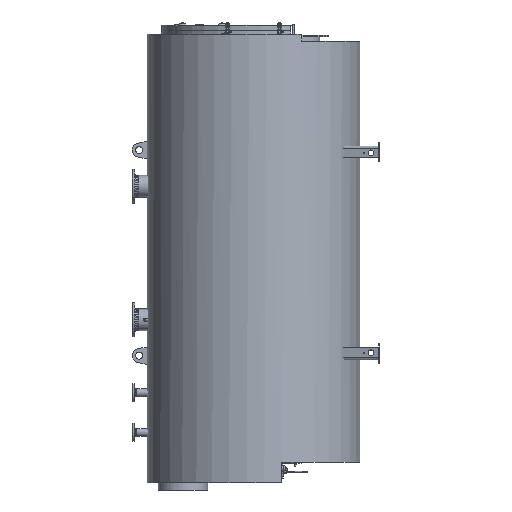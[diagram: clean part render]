
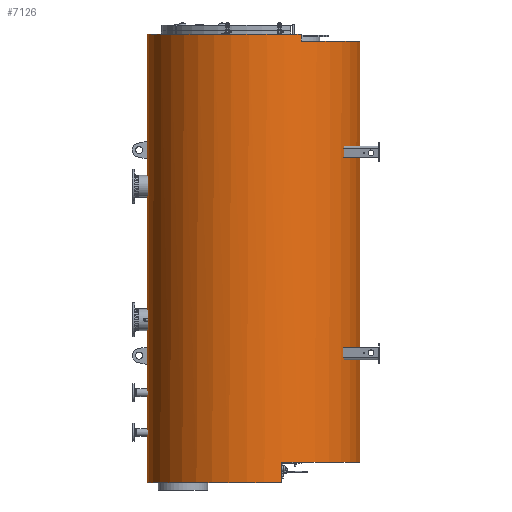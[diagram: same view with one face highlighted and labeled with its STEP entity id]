
A CAD part, left-side view. The second image highlights one B-rep face of the part: STEP entity #7126.
In plain terms, the highlighted cylindrical face has radius 1075 mm (diameter 2150 mm), a full revolution.
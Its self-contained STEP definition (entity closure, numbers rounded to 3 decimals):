
#4945=CYLINDRICAL_SURFACE('',#25401,1075.);
#5378=B_SPLINE_CURVE_WITH_KNOTS('',3,(#34005,#34006,#34007,#34008,#34009,
#34010,#34011,#34012,#34013,#34014,#34015,#34016,#34017,#34018,#34019,#34020,
#34021,#34022,#34023,#34024,#34025,#34026,#34027,#34028,#34029,#34030,#34031,
#34032,#34033,#34034,#34035,#34036,#34037,#34038,#34039,#34040,#34041,#34042,
#34043,#34044,#34045,#34046,#34047,#34048,#34049,#34050,#34051,#34052,#34053,
#34054,#34055,#34056,#34057,#34058,#34059,#34060,#34061,#34062,#34063,#34064,
#34065,#34066,#34067,#34068,#34069,#34070),.UNSPECIFIED.,.T.,.F.,(2,2,2,
2,2,2,2,2,2,2,2,2,2,2,2,2,2,2,2,2,2,2,2,2,2,2,2,2,2,2,2,2,2,2,2),(-0.031,
0.,0.031,0.063,0.094,0.125,0.156,0.188,0.219,0.25,0.281,0.313,
0.344,0.375,0.406,0.438,0.469,0.5,0.531,0.563,0.594,0.625,0.656,
0.688,0.719,0.75,0.781,0.813,0.844,0.875,0.906,0.938,0.969,
1.,1.031),.UNSPECIFIED.);
#5868=FACE_BOUND('',#9868,.T.);
#5869=FACE_BOUND('',#9869,.T.);
#5870=FACE_BOUND('',#9870,.T.);
#7126=ADVANCED_FACE('',(#5868,#5869,#5870),#4945,.T.);
#9868=EDGE_LOOP('',(#14287,#14288,#14289,#14290));
#9869=EDGE_LOOP('',(#14291));
#9870=EDGE_LOOP('',(#14292,#14293,#14294,#14295));
#11885=LINE('',#34000,#13062);
#11886=LINE('',#34004,#13063);
#11887=LINE('',#34075,#13064);
#11888=LINE('',#34076,#13065);
#13062=VECTOR('',#27853,1.);
#13063=VECTOR('',#27856,1.);
#13064=VECTOR('',#27859,1.);
#13065=VECTOR('',#27860,1.);
#14287=ORIENTED_EDGE('',*,*,#21723,.T.);
#14288=ORIENTED_EDGE('',*,*,#21724,.T.);
#14289=ORIENTED_EDGE('',*,*,#21725,.F.);
#14290=ORIENTED_EDGE('',*,*,#21710,.F.);
#14291=ORIENTED_EDGE('',*,*,#21726,.F.);
#14292=ORIENTED_EDGE('',*,*,#21727,.T.);
#14293=ORIENTED_EDGE('',*,*,#21728,.F.);
#14294=ORIENTED_EDGE('',*,*,#21721,.T.);
#14295=ORIENTED_EDGE('',*,*,#21729,.T.);
#19684=VERTEX_POINT('',#33931);
#19685=VERTEX_POINT('',#33932);
#19690=VERTEX_POINT('',#33944);
#19695=VERTEX_POINT('',#33953);
#19697=VERTEX_POINT('',#34001);
#19698=VERTEX_POINT('',#34003);
#19699=VERTEX_POINT('',#34071);
#19700=VERTEX_POINT('',#34073);
#19701=VERTEX_POINT('',#34074);
#21710=EDGE_CURVE('',#19684,#19685,#24415,.T.);
#21721=EDGE_CURVE('',#19690,#19695,#24418,.T.);
#21723=EDGE_CURVE('',#19684,#19697,#11885,.T.);
#21724=EDGE_CURVE('',#19697,#19698,#24419,.T.);
#21725=EDGE_CURVE('',#19685,#19698,#11886,.T.);
#21726=EDGE_CURVE('',#19699,#19699,#5378,.T.);
#21727=EDGE_CURVE('',#19700,#19701,#24420,.T.);
#21728=EDGE_CURVE('',#19690,#19701,#11887,.T.);
#21729=EDGE_CURVE('',#19695,#19700,#11888,.T.);
#24415=CIRCLE('',#25393,1075.);
#24418=CIRCLE('',#25397,1075.);
#24419=CIRCLE('',#25399,1075.);
#24420=CIRCLE('',#25400,1075.);
#25393=AXIS2_PLACEMENT_3D('',#33930,#27833,#27834);
#25397=AXIS2_PLACEMENT_3D('',#33954,#27849,#27850);
#25399=AXIS2_PLACEMENT_3D('',#34002,#27854,#27855);
#25400=AXIS2_PLACEMENT_3D('',#34072,#27857,#27858);
#25401=AXIS2_PLACEMENT_3D('',#34077,#27861,#27862);
#27833=DIRECTION('',(0.,0.,1.));
#27834=DIRECTION('',(1.,0.,0.));
#27849=DIRECTION('',(0.,0.,1.));
#27850=DIRECTION('',(1.,0.,0.));
#27853=DIRECTION('',(0.,0.,-1.));
#27854=DIRECTION('',(0.,0.,-1.));
#27855=DIRECTION('',(1.,0.,0.));
#27856=DIRECTION('',(0.,0.,-1.));
#27857=DIRECTION('',(0.,0.,1.));
#27858=DIRECTION('',(1.,0.,0.));
#27859=DIRECTION('',(0.,0.,-1.));
#27860=DIRECTION('',(0.,0.,-1.));
#27861=DIRECTION('',(0.,0.,1.));
#27862=DIRECTION('',(1.,0.,0.));
#33930=CARTESIAN_POINT('',(0.,0.,170.));
#33931=CARTESIAN_POINT('',(961.886,-480.,170.));
#33932=CARTESIAN_POINT('',(-961.886,-480.,170.));
#33944=CARTESIAN_POINT('',(-1036.533,-285.,-4157.));
#33953=CARTESIAN_POINT('',(1036.533,-285.,-4157.));
#33954=CARTESIAN_POINT('',(0.,0.,-4157.));
#34000=CARTESIAN_POINT('',(961.886,-480.,187.));
#34001=CARTESIAN_POINT('',(961.886,-480.,100.));
#34002=CARTESIAN_POINT('',(0.,0.,100.));
#34003=CARTESIAN_POINT('',(-961.886,-480.,100.));
#34004=CARTESIAN_POINT('',(-961.886,-480.,187.));
#34005=CARTESIAN_POINT('',(-5.618,-1075.,-3562.));
#34006=CARTESIAN_POINT('',(5.618,-1075.,-3562.));
#34007=CARTESIAN_POINT('',(11.141,-1074.956,-3561.449));
#34008=CARTESIAN_POINT('',(22.008,-1074.788,-3559.288));
#34009=CARTESIAN_POINT('',(27.407,-1074.663,-3557.653));
#34010=CARTESIAN_POINT('',(37.7,-1074.351,-3553.386));
#34011=CARTESIAN_POINT('',(42.581,-1074.166,-3550.775));
#34012=CARTESIAN_POINT('',(51.819,-1073.76,-3544.607));
#34013=CARTESIAN_POINT('',(56.191,-1073.538,-3541.018));
#34014=CARTESIAN_POINT('',(64.029,-1073.099,-3533.179));
#34015=CARTESIAN_POINT('',(67.546,-1072.88,-3528.901));
#34016=CARTESIAN_POINT('',(73.76,-1072.471,-3519.61));
#34017=CARTESIAN_POINT('',(76.4,-1072.284,-3514.666));
#34018=CARTESIAN_POINT('',(80.64,-1071.973,-3504.439));
#34019=CARTESIAN_POINT('',(82.272,-1071.848,-3499.081));
#34020=CARTESIAN_POINT('',(84.457,-1071.678,-3488.108));
#34021=CARTESIAN_POINT('',(84.997,-1071.635,-3482.592));
#34022=CARTESIAN_POINT('',(85.003,-1071.634,-3471.5));
#34023=CARTESIAN_POINT('',(84.451,-1071.678,-3465.867));
#34024=CARTESIAN_POINT('',(82.282,-1071.847,-3454.964));
#34025=CARTESIAN_POINT('',(80.677,-1071.971,-3449.664));
#34026=CARTESIAN_POINT('',(76.42,-1072.282,-3439.371));
#34027=CARTESIAN_POINT('',(73.76,-1072.471,-3434.396));
#34028=CARTESIAN_POINT('',(67.609,-1072.876,-3425.186));
#34029=CARTESIAN_POINT('',(64.098,-1073.095,-3420.893));
#34030=CARTESIAN_POINT('',(56.166,-1073.539,-3412.954));
#34031=CARTESIAN_POINT('',(51.872,-1073.758,-3409.435));
#34032=CARTESIAN_POINT('',(42.67,-1074.163,-3403.278));
#34033=CARTESIAN_POINT('',(37.702,-1074.351,-3400.615));
#34034=CARTESIAN_POINT('',(27.406,-1074.663,-3396.347));
#34035=CARTESIAN_POINT('',(22.108,-1074.786,-3394.738));
#34036=CARTESIAN_POINT('',(11.214,-1074.955,-3392.56));
#34037=CARTESIAN_POINT('',(5.579,-1075.,-3392.002));
#34038=CARTESIAN_POINT('',(-5.517,-1075.,-3391.998));
#34039=CARTESIAN_POINT('',(-11.033,-1074.957,-3392.534));
#34040=CARTESIAN_POINT('',(-21.997,-1074.789,-3394.706));
#34041=CARTESIAN_POINT('',(-27.368,-1074.664,-3396.336));
#34042=CARTESIAN_POINT('',(-37.6,-1074.354,-3400.568));
#34043=CARTESIAN_POINT('',(-42.539,-1074.168,-3403.198));
#34044=CARTESIAN_POINT('',(-51.842,-1073.759,-3409.408));
#34045=CARTESIAN_POINT('',(-56.124,-1073.541,-3412.923));
#34046=CARTESIAN_POINT('',(-63.968,-1073.102,-3420.752));
#34047=CARTESIAN_POINT('',(-67.56,-1072.879,-3425.12));
#34048=CARTESIAN_POINT('',(-73.738,-1072.472,-3434.356));
#34049=CARTESIAN_POINT('',(-76.353,-1072.287,-3439.234));
#34050=CARTESIAN_POINT('',(-80.626,-1071.974,-3449.516));
#34051=CARTESIAN_POINT('',(-82.269,-1071.848,-3454.919));
#34052=CARTESIAN_POINT('',(-84.439,-1071.679,-3465.785));
#34053=CARTESIAN_POINT('',(-84.994,-1071.635,-3471.305));
#34054=CARTESIAN_POINT('',(-85.005,-1071.634,-3482.528));
#34055=CARTESIAN_POINT('',(-84.458,-1071.678,-3488.067));
#34056=CARTESIAN_POINT('',(-82.308,-1071.845,-3498.934));
#34057=CARTESIAN_POINT('',(-80.68,-1071.97,-3504.328));
#34058=CARTESIAN_POINT('',(-76.419,-1072.282,-3514.633));
#34059=CARTESIAN_POINT('',(-73.812,-1072.467,-3519.517));
#34060=CARTESIAN_POINT('',(-67.655,-1072.873,-3528.756));
#34061=CARTESIAN_POINT('',(-64.069,-1073.096,-3533.133));
#34062=CARTESIAN_POINT('',(-56.234,-1073.535,-3540.98));
#34063=CARTESIAN_POINT('',(-51.96,-1073.754,-3544.501));
#34064=CARTESIAN_POINT('',(-42.683,-1074.162,-3550.718));
#34065=CARTESIAN_POINT('',(-37.733,-1074.35,-3553.366));
#34066=CARTESIAN_POINT('',(-27.51,-1074.66,-3557.615));
#34067=CARTESIAN_POINT('',(-22.17,-1074.785,-3559.249));
#34068=CARTESIAN_POINT('',(-11.175,-1074.956,-3561.448));
#34069=CARTESIAN_POINT('',(-5.618,-1075.,-3562.));
#34070=CARTESIAN_POINT('',(5.618,-1075.,-3562.));
#34071=CARTESIAN_POINT('',(0.,-1075.,-3562.));
#34072=CARTESIAN_POINT('',(0.,0.,-4360.));
#34073=CARTESIAN_POINT('',(1036.533,-285.,-4360.));
#34074=CARTESIAN_POINT('',(-1036.533,-285.,-4360.));
#34075=CARTESIAN_POINT('',(-1036.533,-285.,-4157.));
#34076=CARTESIAN_POINT('',(1036.533,-285.,-4157.));
#34077=CARTESIAN_POINT('',(0.,0.,-4360.));
